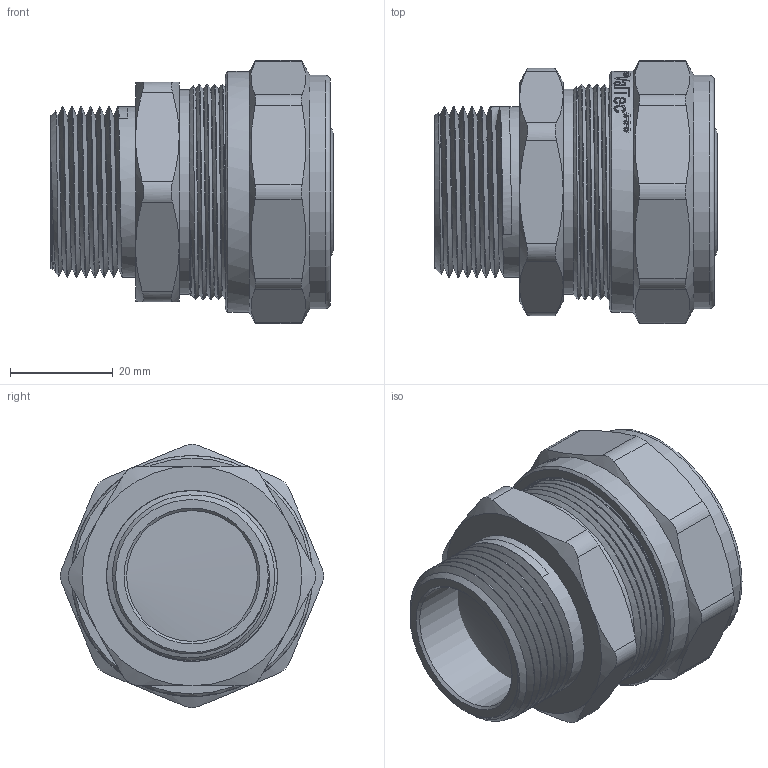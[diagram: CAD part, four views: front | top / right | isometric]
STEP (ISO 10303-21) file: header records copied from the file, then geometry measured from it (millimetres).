
FILE_DESCRIPTION(/* description */ (''),/* implementation_level */ '2;1');
FILE_NAME(/* name */ 'E:\Артём\00000\Работа удаленка\Обжимные фитинги\VTm.301.N.003205.stp',/* time_stamp */ '2020-05-22T10:50:41+03:00',/* author */ ('BeN_GaN'),/* organization */ (''),/* preprocessor_version */ 'ST-DEVELOPER v18',/* originating_system */ 'Autodesk Inventor 2020',/* authorisation */ '');
FILE_SCHEMA (('AUTOMOTIVE_DESIGN { 1 0 10303 214 3 1 1 }'));
Length unit declared in the file: millimetre
Products named in the file (1): VTm.301.N.003205
Bounding box: 55 x 51.3 x 51.3 mm (x, y, z)
Volume: 44224.2 mm3; surface area: 25588.6 mm2
Topology: 1 solids, 1 shells, 705 faces, 2006 edges, 1355 vertices
Faces by surface type: bspline 371, plane 174, cylinder 106, cone 30, torus 24
Full cylindrical faces by diameter (mm): 20 x1, 23.4 x2, 25.5 x1, 25.75 x5, 29.7 x7, 30.538 x4, 31.683 x5, 32.2 x1, 32.7 x1, 33.3 x8, 35.5 x1, 40 x1, 40.38 x5, 40.5 x1, 42 x4, 45.5 x1, 47 x1
Entity records: 32380 total; most frequent: CARTESIAN_POINT 16549, ORIENTED_EDGE 4012, DIRECTION 2078, EDGE_CURVE 2006, VERTEX_POINT 1355, B_SPLINE_CURVE_WITH_KNOTS 864, LINE 796, VECTOR 796
